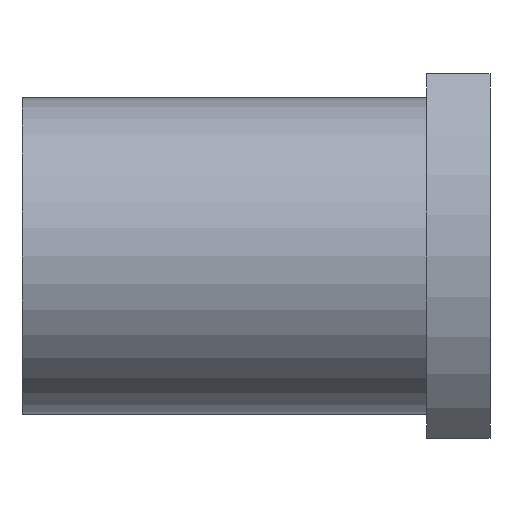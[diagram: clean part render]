
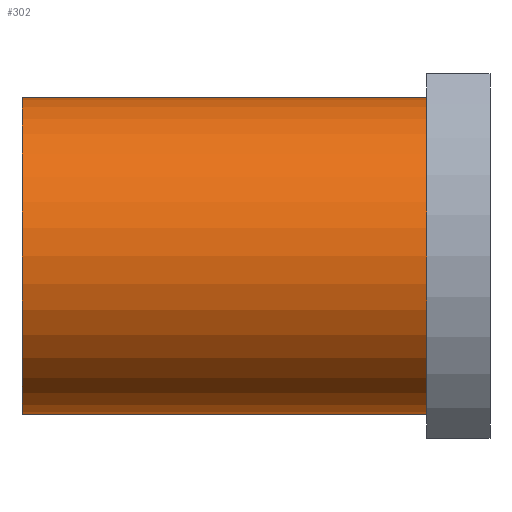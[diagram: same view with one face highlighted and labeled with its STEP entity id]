
A CAD part, front view. The second image highlights one B-rep face of the part: STEP entity #302.
In plain terms, the highlighted cylindrical face has radius 20 mm (diameter 40 mm), a full revolution.
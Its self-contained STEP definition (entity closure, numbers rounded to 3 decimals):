
#37=CYLINDRICAL_SURFACE('',#346,20.);
#60=ORIENTED_EDGE('',*,*,#124,.T.);
#61=ORIENTED_EDGE('',*,*,#125,.T.);
#124=EDGE_CURVE('',#156,#156,#182,.T.);
#125=EDGE_CURVE('',#157,#157,#183,.F.);
#156=VERTEX_POINT('',#508);
#157=VERTEX_POINT('',#510);
#182=CIRCLE('',#347,20.);
#183=CIRCLE('',#348,20.);
#205=EDGE_LOOP('',(#60));
#206=EDGE_LOOP('',(#61));
#251=FACE_BOUND('',#205,.T.);
#252=FACE_BOUND('',#206,.T.);
#302=ADVANCED_FACE('',(#251,#252),#37,.T.);
#346=AXIS2_PLACEMENT_3D('',#506,#410,#411);
#347=AXIS2_PLACEMENT_3D('',#507,#412,#413);
#348=AXIS2_PLACEMENT_3D('',#509,#414,#415);
#410=DIRECTION('',(1.,0.,0.));
#411=DIRECTION('',(0.,0.,-1.));
#412=DIRECTION('',(1.,0.,0.));
#413=DIRECTION('',(0.,0.,-1.));
#414=DIRECTION('',(1.,0.,0.));
#415=DIRECTION('',(0.,0.,-1.));
#506=CARTESIAN_POINT('',(-29.5,0.,0.));
#507=CARTESIAN_POINT('',(-29.5,0.,0.));
#508=CARTESIAN_POINT('',(-29.5,0.,-20.));
#509=CARTESIAN_POINT('',(21.5,0.,0.));
#510=CARTESIAN_POINT('',(21.5,0.,-20.));
